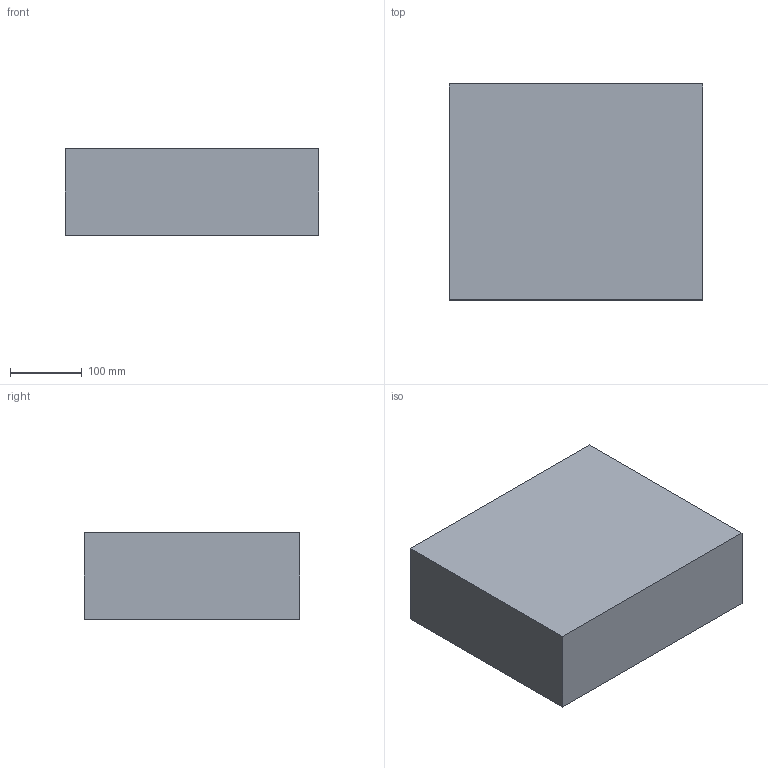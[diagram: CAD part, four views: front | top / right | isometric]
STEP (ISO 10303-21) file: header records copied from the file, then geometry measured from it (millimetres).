
FILE_DESCRIPTION(/* description */ (''),/* implementation_level */ '2;1');
FILE_NAME(/* name */ 'EG (-X) 200.stp',/* time_stamp */ '2024-09-26T16:53:09+02:00',/* author */ ('d.streicher'),/* organization */ (''),/* preprocessor_version */ 'ST-DEVELOPER v20',/* originating_system */ 'Autodesk Inventor 2025',/* authorisation */ '');
FILE_SCHEMA (('AUTOMOTIVE_DESIGN { 1 0 10303 214 3 1 1 }'));
Length unit declared in the file: millimetre
Products named in the file (1): EG (-X) 200
Bounding box: 352.5 x 300 x 120 mm (x, y, z)
Volume: 3136338.1 mm3; surface area: 633973.8 mm2
Topology: 1 solids, 1 shells, 16 faces, 36 edges, 24 vertices
Faces by surface type: plane 12, cylinder 4
Full cylindrical faces by diameter (mm): 4 x3, 176 x1
Entity records: 528 total; most frequent: DIRECTION 78, CARTESIAN_POINT 77, ORIENTED_EDGE 72, EDGE_CURVE 36, LINE 28, VECTOR 28, AXIS2_PLACEMENT_3D 25, EDGE_LOOP 24
